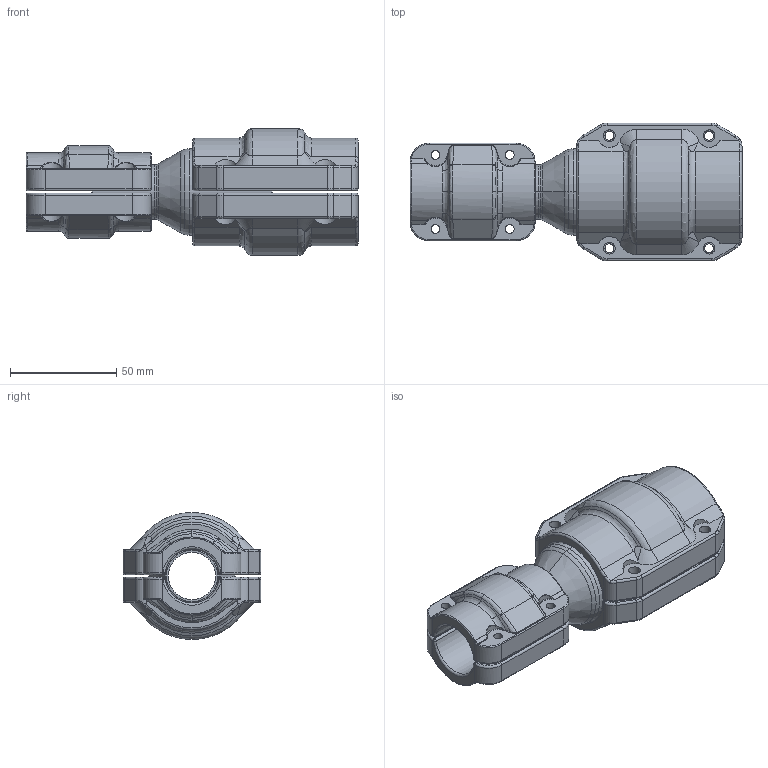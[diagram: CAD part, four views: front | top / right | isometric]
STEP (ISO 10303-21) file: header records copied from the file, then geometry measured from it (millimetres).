
FILE_DESCRIPTION((''),'2;1');
FILE_NAME('2015422499_ASM','2017-05-12T',('Administrator'),(''),'PRO/ENGINEER BY PARAMETRIC TECHNOLOGY CORPORATION, 2009360','PRO/ENGINEER BY PARAMETRIC TECHNOLOGY CORPORATION, 2009360','');
FILE_SCHEMA(('AUTOMOTIVE_DESIGN_CC2 { 1 2 10303 214 -1 1 5 2 }'));
Length unit declared in the file: millimetre
Products named in the file (8): 2015422100; 201520020000_23; 201520020001_10; 2015200200_ASM; 201540020001; 201540020000; 2015400200_ASM; 2015422499_ASM
Assembly tree (7 placements, depth 3):
  2015422499_ASM
    2015422100
    2015200200_ASM
      201520020000_23
      201520020001_10
    2015400200_ASM
      201540020001
      201540020000
Bounding box: 156.5 x 65 x 59.9 mm (x, y, z)
Volume: 166969.1 mm3; surface area: 66152.2 mm2
Topology: 5 solids, 5 shells, 564 faces, 1345 edges, 791 vertices
Faces by surface type: cylinder 196, bspline 170, torus 108, plane 66, sphere 16, cone 8
Entity records: 26707 total; most frequent: CARTESIAN_POINT 10591, ORIENTED_EDGE 2690, DIRECTION 2252, PRESENTATION_STYLE_ASSIGNMENT 1350, STYLED_ITEM 1350, CURVE_STYLE 1345, EDGE_CURVE 1345, AXIS2_PLACEMENT_3D 956
